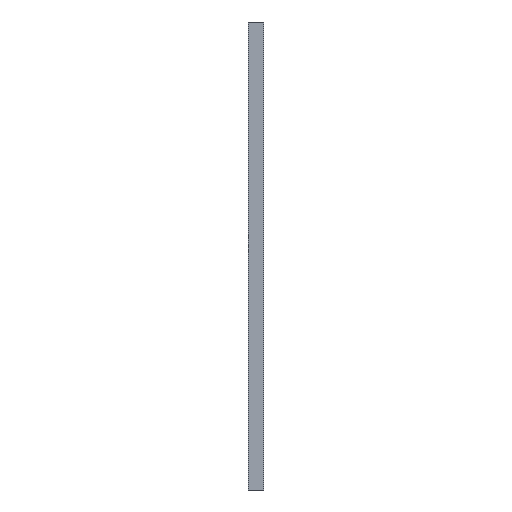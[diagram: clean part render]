
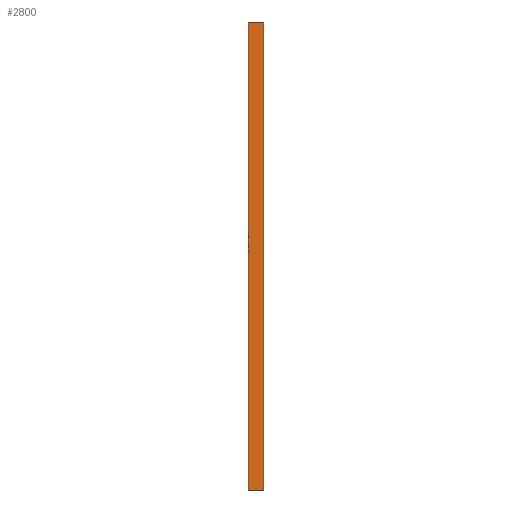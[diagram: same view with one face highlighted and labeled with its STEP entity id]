
A CAD part, left-side view. The second image highlights one B-rep face of the part: STEP entity #2800.
In plain terms, the highlighted planar face has unit normal (-1, 0, 0).
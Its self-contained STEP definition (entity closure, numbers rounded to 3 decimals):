
#174=PLANE('',#3046);
#570=ORIENTED_EDGE('',*,*,#1407,.T.);
#571=ORIENTED_EDGE('',*,*,#1408,.F.);
#572=ORIENTED_EDGE('',*,*,#1387,.F.);
#573=ORIENTED_EDGE('',*,*,#1409,.T.);
#1387=EDGE_CURVE('',#1784,#1785,#1997,.T.);
#1407=EDGE_CURVE('',#1804,#1805,#2004,.T.);
#1408=EDGE_CURVE('',#1785,#1805,#2005,.T.);
#1409=EDGE_CURVE('',#1784,#1804,#2006,.T.);
#1784=VERTEX_POINT('',#4665);
#1785=VERTEX_POINT('',#4667);
#1804=VERTEX_POINT('',#4707);
#1805=VERTEX_POINT('',#4708);
#1997=LINE('',#4666,#2219);
#2004=LINE('',#4706,#2226);
#2005=LINE('',#4709,#2227);
#2006=LINE('',#4710,#2228);
#2219=VECTOR('',#3528,1000.);
#2226=VECTOR('',#3563,1000.);
#2227=VECTOR('',#3564,1000.);
#2228=VECTOR('',#3565,1000.);
#2408=EDGE_LOOP('',(#570,#571,#572,#573));
#2556=FACE_BOUND('',#2408,.T.);
#2800=ADVANCED_FACE('',(#2556),#174,.F.);
#3046=AXIS2_PLACEMENT_3D('',#4705,#3561,#3562);
#3528=DIRECTION('',(0.,-1.,0.));
#3561=DIRECTION('',(1.,0.,0.));
#3562=DIRECTION('',(0.,1.,0.));
#3563=DIRECTION('',(0.,-1.,0.));
#3564=DIRECTION('',(0.,0.,-1.));
#3565=DIRECTION('',(0.,0.,-1.));
#4665=CARTESIAN_POINT('',(-14.,40.5,726.5));
#4666=CARTESIAN_POINT('',(-14.,-7.5,726.5));
#4667=CARTESIAN_POINT('',(-14.,-7.5,726.5));
#4705=CARTESIAN_POINT('',(-14.,-7.5,726.5));
#4706=CARTESIAN_POINT('',(-14.,-7.5,-726.5));
#4707=CARTESIAN_POINT('',(-14.,40.5,-726.5));
#4708=CARTESIAN_POINT('',(-14.,-7.5,-726.5));
#4709=CARTESIAN_POINT('',(-14.,-7.5,726.5));
#4710=CARTESIAN_POINT('',(-14.,40.5,726.5));
